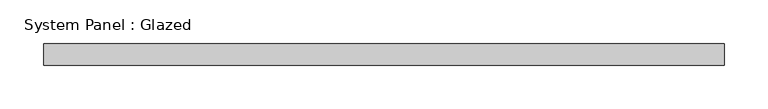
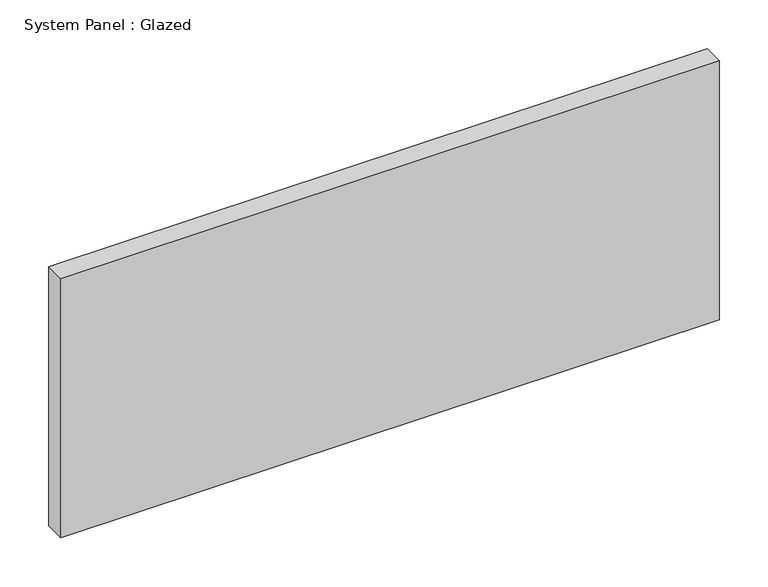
"""IFC4 building model written with IfcOpenShell, lengths in millimetres: plate geometry, System Panel : Glazed."""

from ifc_helpers import new_model, si_unit, origin, origin_with_axes, place, context, project, spatial, polyline, outline, extrude, source, transform, mapped, element, save


def system_panel_glazed_6420dd34(model_context):
    return source(origin(), model_context, "Body", "SweptSolid", [
        extrude(outline(polyline([(390.6250001, 24.5), (-390.6250001, 24.5), (-390.6250001, 49.5), (390.6250001, 49.5), (390.6250001, 24.5)])), origin_with_axes(), (0.0, 0.0, 1.0), 325.0),
    ])


if __name__ == "__main__":
    model = new_model("IFC4")
    model_context = context("Model", 3, world=origin())
    ifc_project = project(units=[si_unit("LENGTHUNIT", "METRE", prefix="MILLI")], contexts=[model_context])
    site = spatial("IfcSite", under=ifc_project)
    building = spatial("IfcBuilding", under=site)
    placement = place(None, origin())
    system_panel_glazed_shape = system_panel_glazed_6420dd34(model_context)
    element("IfcPlate", 1, ObjectType="System Panel : Glazed", at=placement, inside=building, context=model_context, shape_type="MappedRepresentation", body=[
        mapped(system_panel_glazed_shape, transform((0.0, 0.0, 0.0), x_axis=(1.0, 0.0, 0.0), y_axis=(0.0, 1.0, 0.0), z_axis=(0.0, 0.0, 1.0))),
    ])
    save(model, "model.ifc")
